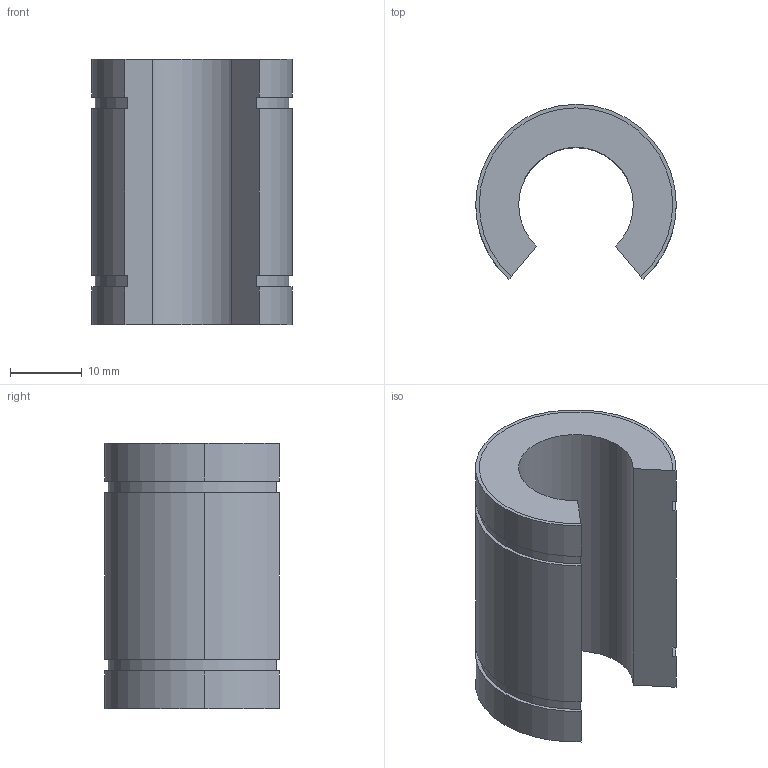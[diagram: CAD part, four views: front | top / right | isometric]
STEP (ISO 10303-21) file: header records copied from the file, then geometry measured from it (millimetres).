
FILE_DESCRIPTION((''),'2;1');
FILE_NAME('C:\Documents and Settings\ｿﾀﾀ蠑ｷ1\ｹﾙﾅﾁ ﾈｭｸ饅\ｺﾎﾇｰﾆﾄﾀﾏ\ﾁｦﾇｰ\LM__UUOP\LM16UUOP.stp','2005-06-14T16:16:08',('ｿﾀﾀ蠑ｷ1'),(''),'Autodesk Inventor 9','Autodesk Inventor 9','');
FILE_SCHEMA(('AUTOMOTIVE_DESIGN { 1 0 10303 214 1 1 1 1 }'));
Length unit declared in the file: millimetre
Products named in the file (1): LM__
Bounding box: 28 x 24.41 x 37 mm (x, y, z)
Volume: 11615.1 mm3; surface area: 5106.5 mm2
Topology: 1 solids, 1 shells, 26 faces, 72 edges, 48 vertices
Faces by surface type: cylinder 16, plane 10
Entity records: 873 total; most frequent: DIRECTION 160, CARTESIAN_POINT 147, ORIENTED_EDGE 144, EDGE_CURVE 72, AXIS2_PLACEMENT_3D 61, VERTEX_POINT 48, VECTOR 38, LINE 38
